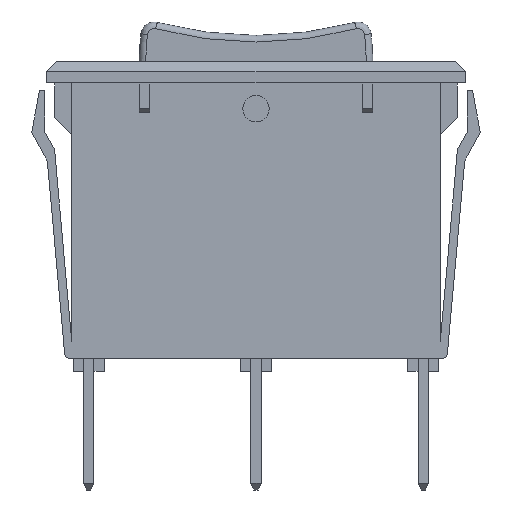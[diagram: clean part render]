
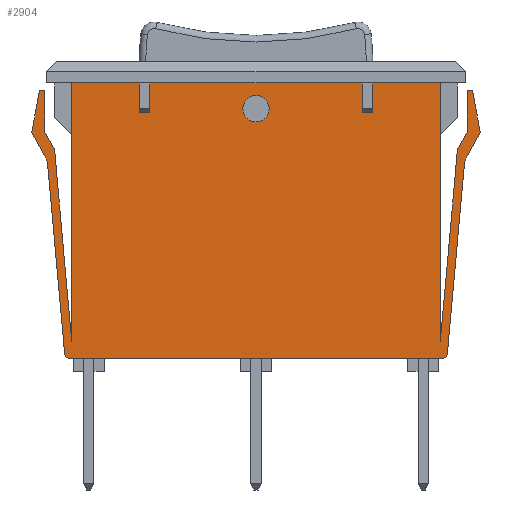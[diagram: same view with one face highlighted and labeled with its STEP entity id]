
A CAD part, left-side view. The second image highlights one B-rep face of the part: STEP entity #2904.
In plain terms, the highlighted planar face has unit normal (-1, 0, 0).
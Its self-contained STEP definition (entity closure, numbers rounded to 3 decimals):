
#31=FACE_BOUND('',#336,.T.);
#168=FACE_OUTER_BOUND('',#335,.T.);
#335=EDGE_LOOP('',(#2383,#2384,#2385,#2386,#2387,#2388,#2389,#2390,#2391,
#2392,#2393,#2394,#2395,#2396,#2397,#2398,#2399,#2400,#2401,#2402));
#336=EDGE_LOOP('',(#2403));
#511=LINE('',#4370,#872);
#567=LINE('',#4481,#928);
#582=LINE('',#4508,#943);
#608=LINE('',#4567,#969);
#610=LINE('',#4571,#971);
#612=LINE('',#4575,#973);
#614=LINE('',#4579,#975);
#616=LINE('',#4583,#977);
#618=LINE('',#4587,#979);
#620=LINE('',#4591,#981);
#630=LINE('',#4615,#991);
#632=LINE('',#4619,#993);
#634=LINE('',#4623,#995);
#636=LINE('',#4627,#997);
#638=LINE('',#4631,#999);
#640=LINE('',#4635,#1001);
#642=LINE('',#4638,#1003);
#657=LINE('',#4671,#1018);
#872=VECTOR('',#3512,1000.);
#928=VECTOR('',#3578,1000.);
#943=VECTOR('',#3603,1000.);
#969=VECTOR('',#3659,1000.);
#971=VECTOR('',#3663,1000.);
#973=VECTOR('',#3667,1000.);
#975=VECTOR('',#3671,1000.);
#977=VECTOR('',#3675,1000.);
#979=VECTOR('',#3679,1000.);
#981=VECTOR('',#3683,1000.);
#991=VECTOR('',#3703,1000.);
#993=VECTOR('',#3707,1000.);
#995=VECTOR('',#3711,1000.);
#997=VECTOR('',#3715,1000.);
#999=VECTOR('',#3719,1000.);
#1001=VECTOR('',#3723,1000.);
#1003=VECTOR('',#3727,1000.);
#1018=VECTOR('',#3764,1000.);
#1155=CIRCLE('',#3060,1.);
#1165=CIRCLE('',#3123,0.381);
#1167=CIRCLE('',#3134,0.381);
#1197=VERTEX_POINT('',#4143);
#1279=VERTEX_POINT('',#4367);
#1280=VERTEX_POINT('',#4369);
#1329=VERTEX_POINT('',#4478);
#1330=VERTEX_POINT('',#4480);
#1337=VERTEX_POINT('',#4506);
#1347=VERTEX_POINT('',#4546);
#1355=VERTEX_POINT('',#4566);
#1356=VERTEX_POINT('',#4570);
#1357=VERTEX_POINT('',#4574);
#1358=VERTEX_POINT('',#4578);
#1359=VERTEX_POINT('',#4582);
#1360=VERTEX_POINT('',#4586);
#1361=VERTEX_POINT('',#4590);
#1363=VERTEX_POINT('',#4596);
#1370=VERTEX_POINT('',#4614);
#1371=VERTEX_POINT('',#4618);
#1372=VERTEX_POINT('',#4622);
#1373=VERTEX_POINT('',#4626);
#1374=VERTEX_POINT('',#4630);
#1375=VERTEX_POINT('',#4634);
#1479=EDGE_CURVE('',#1197,#1197,#1155,.T.);
#1589=EDGE_CURVE('',#1279,#1280,#511,.T.);
#1645=EDGE_CURVE('',#1330,#1329,#567,.T.);
#1660=EDGE_CURVE('',#1337,#1329,#582,.T.);
#1680=EDGE_CURVE('',#1279,#1347,#1165,.T.);
#1689=EDGE_CURVE('',#1347,#1355,#608,.T.);
#1691=EDGE_CURVE('',#1355,#1356,#610,.T.);
#1693=EDGE_CURVE('',#1356,#1357,#612,.T.);
#1695=EDGE_CURVE('',#1357,#1358,#614,.T.);
#1697=EDGE_CURVE('',#1358,#1359,#616,.T.);
#1699=EDGE_CURVE('',#1359,#1360,#618,.T.);
#1701=EDGE_CURVE('',#1360,#1361,#620,.T.);
#1704=EDGE_CURVE('',#1363,#1280,#1167,.T.);
#1713=EDGE_CURVE('',#1370,#1337,#630,.T.);
#1715=EDGE_CURVE('',#1371,#1370,#632,.T.);
#1717=EDGE_CURVE('',#1372,#1371,#634,.T.);
#1719=EDGE_CURVE('',#1373,#1372,#636,.T.);
#1721=EDGE_CURVE('',#1374,#1373,#638,.T.);
#1723=EDGE_CURVE('',#1375,#1374,#640,.T.);
#1725=EDGE_CURVE('',#1363,#1375,#642,.T.);
#1741=EDGE_CURVE('',#1361,#1330,#657,.T.);
#2383=ORIENTED_EDGE('',*,*,#1589,.F.);
#2384=ORIENTED_EDGE('',*,*,#1680,.T.);
#2385=ORIENTED_EDGE('',*,*,#1689,.T.);
#2386=ORIENTED_EDGE('',*,*,#1691,.T.);
#2387=ORIENTED_EDGE('',*,*,#1693,.T.);
#2388=ORIENTED_EDGE('',*,*,#1695,.T.);
#2389=ORIENTED_EDGE('',*,*,#1697,.T.);
#2390=ORIENTED_EDGE('',*,*,#1699,.T.);
#2391=ORIENTED_EDGE('',*,*,#1701,.T.);
#2392=ORIENTED_EDGE('',*,*,#1741,.T.);
#2393=ORIENTED_EDGE('',*,*,#1645,.T.);
#2394=ORIENTED_EDGE('',*,*,#1660,.F.);
#2395=ORIENTED_EDGE('',*,*,#1713,.F.);
#2396=ORIENTED_EDGE('',*,*,#1715,.F.);
#2397=ORIENTED_EDGE('',*,*,#1717,.F.);
#2398=ORIENTED_EDGE('',*,*,#1719,.F.);
#2399=ORIENTED_EDGE('',*,*,#1721,.F.);
#2400=ORIENTED_EDGE('',*,*,#1723,.F.);
#2401=ORIENTED_EDGE('',*,*,#1725,.F.);
#2402=ORIENTED_EDGE('',*,*,#1704,.T.);
#2403=ORIENTED_EDGE('',*,*,#1479,.T.);
#2748=PLANE('',#3153);
#2904=ADVANCED_FACE('',(#168,#31),#2748,.F.);
#3060=AXIS2_PLACEMENT_3D('',#4144,#3328,#3329);
#3123=AXIS2_PLACEMENT_3D('',#4548,#3645,#3646);
#3134=AXIS2_PLACEMENT_3D('',#4597,#3689,#3690);
#3153=AXIS2_PLACEMENT_3D('',#4670,#3762,#3763);
#3328=DIRECTION('center_axis',(1.,0.,0.));
#3329=DIRECTION('ref_axis',(0.,-1.,0.));
#3512=DIRECTION('',(0.,1.,0.));
#3578=DIRECTION('',(0.,1.,0.));
#3603=DIRECTION('',(0.,0.,1.));
#3645=DIRECTION('center_axis',(-1.,0.,0.));
#3646=DIRECTION('ref_axis',(0.,0.,-1.));
#3659=DIRECTION('',(0.,-0.089,0.996));
#3663=DIRECTION('',(0.,-0.478,0.878));
#3667=DIRECTION('',(0.,0.185,0.983));
#3671=DIRECTION('',(0.,1.,0.));
#3675=DIRECTION('',(0.,0.,-1.));
#3679=DIRECTION('',(0.,0.478,-0.878));
#3683=DIRECTION('',(0.,0.089,-0.996));
#3689=DIRECTION('center_axis',(-1.,0.,0.));
#3690=DIRECTION('ref_axis',(0.,0.,-1.));
#3703=DIRECTION('',(0.,-0.089,-0.996));
#3707=DIRECTION('',(0.,-0.478,-0.878));
#3711=DIRECTION('',(0.,0.,-1.));
#3715=DIRECTION('',(0.,-1.,0.));
#3719=DIRECTION('',(0.,-0.185,0.983));
#3723=DIRECTION('',(0.,0.478,0.878));
#3727=DIRECTION('',(0.,0.089,0.996));
#3762=DIRECTION('center_axis',(1.,0.,0.));
#3763=DIRECTION('ref_axis',(0.,0.,-1.));
#3764=DIRECTION('',(0.,0.,1.));
#4143=CARTESIAN_POINT('',(-6.299,1.,9.861));
#4144=CARTESIAN_POINT('Origin',(-6.299,0.,9.861));
#4367=CARTESIAN_POINT('',(-6.299,-14.155,-9.093));
#4369=CARTESIAN_POINT('',(-6.299,14.155,-9.093));
#4370=CARTESIAN_POINT('',(-6.299,13.995,-9.093));
#4478=CARTESIAN_POINT('',(-6.299,13.995,11.811));
#4480=CARTESIAN_POINT('',(-6.299,-13.995,11.811));
#4481=CARTESIAN_POINT('',(-6.299,13.995,11.811));
#4506=CARTESIAN_POINT('',(-6.299,13.995,-7.802));
#4508=CARTESIAN_POINT('',(-6.299,13.995,-9.093));
#4546=CARTESIAN_POINT('',(-6.299,-14.535,-8.746));
#4548=CARTESIAN_POINT('Origin',(-6.299,-14.155,-8.712));
#4566=CARTESIAN_POINT('',(-6.299,-15.846,5.881));
#4567=CARTESIAN_POINT('',(-6.299,-14.503,-9.093));
#4570=CARTESIAN_POINT('',(-6.299,-17.037,8.07));
#4571=CARTESIAN_POINT('',(-6.299,-15.846,5.881));
#4574=CARTESIAN_POINT('',(-6.299,-16.441,11.233));
#4575=CARTESIAN_POINT('',(-6.299,-17.037,8.07));
#4578=CARTESIAN_POINT('',(-6.299,-16.028,11.233));
#4579=CARTESIAN_POINT('',(-6.299,-16.441,11.233));
#4582=CARTESIAN_POINT('',(-6.299,-16.028,8.07));
#4583=CARTESIAN_POINT('',(-6.299,-16.028,11.233));
#4586=CARTESIAN_POINT('',(-6.299,-15.298,6.728));
#4587=CARTESIAN_POINT('',(-6.299,-16.028,8.07));
#4590=CARTESIAN_POINT('',(-6.299,-13.995,-7.802));
#4591=CARTESIAN_POINT('',(-6.299,-15.298,6.728));
#4596=CARTESIAN_POINT('',(-6.299,14.535,-8.746));
#4597=CARTESIAN_POINT('Origin',(-6.299,14.155,-8.712));
#4614=CARTESIAN_POINT('',(-6.299,15.298,6.728));
#4615=CARTESIAN_POINT('',(-6.299,15.298,6.728));
#4618=CARTESIAN_POINT('',(-6.299,16.028,8.07));
#4619=CARTESIAN_POINT('',(-6.299,16.028,8.07));
#4622=CARTESIAN_POINT('',(-6.299,16.028,11.233));
#4623=CARTESIAN_POINT('',(-6.299,16.028,11.233));
#4626=CARTESIAN_POINT('',(-6.299,16.441,11.233));
#4627=CARTESIAN_POINT('',(-6.299,16.441,11.233));
#4630=CARTESIAN_POINT('',(-6.299,17.037,8.07));
#4631=CARTESIAN_POINT('',(-6.299,17.037,8.07));
#4634=CARTESIAN_POINT('',(-6.299,15.846,5.881));
#4635=CARTESIAN_POINT('',(-6.299,15.846,5.881));
#4638=CARTESIAN_POINT('',(-6.299,14.503,-9.093));
#4670=CARTESIAN_POINT('Origin',(-6.299,13.995,-9.093));
#4671=CARTESIAN_POINT('',(-6.299,-13.995,-9.093));
